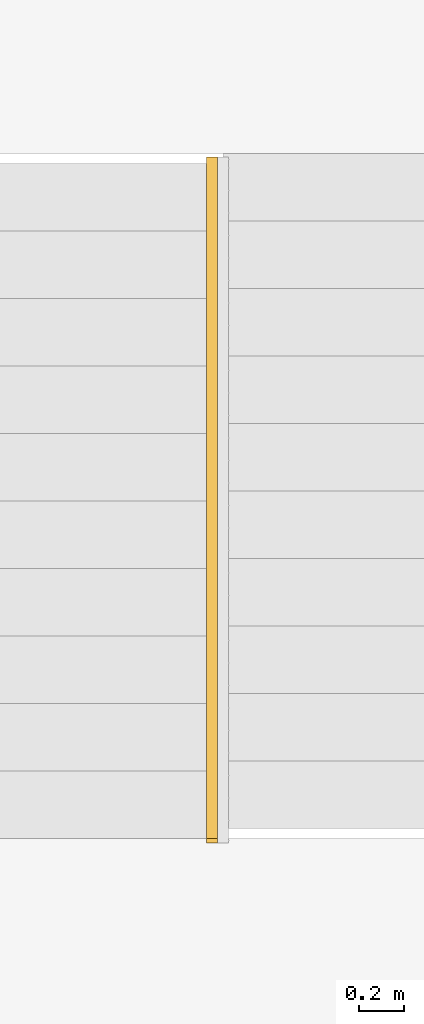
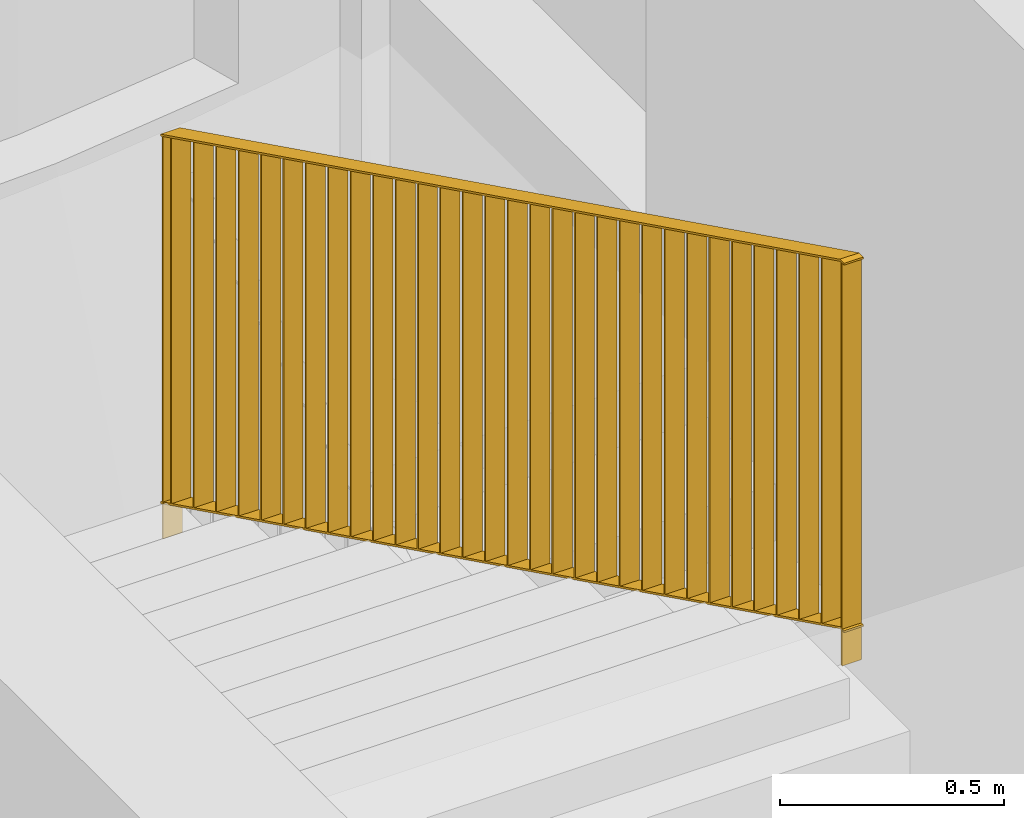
# One storey, part 23 of 46: 1 railing, 1 element without a shape of its own.
"""IFC2X3 building model written with IfcOpenShell, lengths in millimetres."""

from ifc_helpers import new_model, entity, si_unit, converted_unit, derived_unit, direction, frame, origin, place, context, subcontext, project, spatial, faceted_brep, material, element, aggregate, save


model = new_model("IFC2X3")

# Units and contexts
model_context = context("Model", 3, precision=0.01, world=origin(), true_north=direction((6.12303176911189e-17, 1.0)))
body_context = subcontext(model_context, "Body", "Model", "MODEL_VIEW")
ifc_project = project(units=[si_unit("LENGTHUNIT", "METRE", prefix="MILLI"), si_unit("AREAUNIT", "SQUARE_METRE"), si_unit("VOLUMEUNIT", "CUBIC_METRE"), converted_unit("PLANEANGLEUNIT", "DEGREE", entity("IfcRatioMeasure", 0.0174532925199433), si_unit("PLANEANGLEUNIT", "RADIAN"), dimensions=[0, 0, 0, 0, 0, 0, 0]), si_unit("MASSUNIT", "GRAM", prefix="KILO"), derived_unit("MASSDENSITYUNIT", [(si_unit("MASSUNIT", "GRAM", prefix="KILO"), 1), (si_unit("LENGTHUNIT", "METRE"), -3)]), si_unit("TIMEUNIT", "SECOND"), si_unit("FREQUENCYUNIT", "HERTZ"), si_unit("THERMODYNAMICTEMPERATUREUNIT", "DEGREE_CELSIUS"), derived_unit("THERMALTRANSMITTANCEUNIT", [(si_unit("MASSUNIT", "GRAM", prefix="KILO"), 1), (si_unit("THERMODYNAMICTEMPERATUREUNIT", "KELVIN"), -1), (si_unit("TIMEUNIT", "SECOND"), -3)]), derived_unit("VOLUMETRICFLOWRATEUNIT", [(si_unit("LENGTHUNIT", "METRE"), 3), (si_unit("TIMEUNIT", "SECOND"), -1)]), si_unit("ELECTRICCURRENTUNIT", "AMPERE"), si_unit("ELECTRICVOLTAGEUNIT", "VOLT"), si_unit("POWERUNIT", "WATT"), si_unit("FORCEUNIT", "NEWTON", prefix="KILO"), si_unit("ILLUMINANCEUNIT", "LUX"), si_unit("LUMINOUSFLUXUNIT", "LUMEN"), si_unit("LUMINOUSINTENSITYUNIT", "CANDELA"), derived_unit("USERDEFINED", [(si_unit("MASSUNIT", "GRAM", prefix="KILO"), -1), (si_unit("LENGTHUNIT", "METRE"), -2), (si_unit("TIMEUNIT", "SECOND"), 3), (si_unit("LUMINOUSFLUXUNIT", "LUMEN"), 1)]), derived_unit("LINEARVELOCITYUNIT", [(si_unit("LENGTHUNIT", "METRE"), 1), (si_unit("TIMEUNIT", "SECOND"), -1)]), si_unit("PRESSUREUNIT", "PASCAL"), derived_unit("USERDEFINED", [(si_unit("LENGTHUNIT", "METRE"), -2), (si_unit("MASSUNIT", "GRAM", prefix="KILO"), 1), (si_unit("TIMEUNIT", "SECOND"), -2)]), derived_unit("LINEARFORCEUNIT", [(si_unit("MASSUNIT", "GRAM", prefix="KILO"), 1), (si_unit("LENGTHUNIT", "METRE"), 1), (si_unit("TIMEUNIT", "SECOND"), -2), (si_unit("LENGTHUNIT", "METRE"), -1)]), derived_unit("PLANARFORCEUNIT", [(si_unit("MASSUNIT", "GRAM", prefix="KILO"), 1), (si_unit("LENGTHUNIT", "METRE"), 1), (si_unit("TIMEUNIT", "SECOND"), -2), (si_unit("LENGTHUNIT", "METRE"), -2)])], contexts=[model_context])

# Site, building, storey
site_placement = place(None, origin())
site = spatial("IfcSite", under=ifc_project, at=site_placement, Name="Default", CompositionType="ELEMENT")
building_placement = place(site_placement, origin())
building = spatial("IfcBuilding", under=site, at=building_placement, Name="SMA ARH", CompositionType="ELEMENT")
storey_placement = place(building_placement, origin())
storey = spatial("IfcBuildingStorey", under=building, at=storey_placement, Name="1 Korrus", CompositionType="ELEMENT", Elevation=0.0)

# Stair, railing
stair_placement = place(storey_placement, origin())
stair = element("IfcStair", 1, at=stair_placement, inside=storey, Name="Cast-In-Place Stair:Stair", ObjectType="Cast-In-Place Stair:Cast-In-Place Stair", ShapeType="STRAIGHT_RUN_STAIR")
ifc_material = material(Name="Metal - Stainless Steel,Polished")
railing_placement = place(stair_placement, frame((10180.0, 9776.29403501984, 1627.78774461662)))
railing = element("IfcRailing", 2, at=railing_placement, material=ifc_material, Name="Railing:1000mm_sisearh railing offsetiga", ObjectType="Railing:1000mm_sisearh railing offsetiga", PredefinedType="NOTDEFINED", context=body_context, shape_type="Brep", body=[
    faceted_brep([(0.0, 3002.50000000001, 118.557422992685), (0.0, 2997.50000000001, 121.01196844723), (0.0, 2997.50000000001, 1115.44197801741), (0.0, 3002.50000000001, 1112.98743256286), (50.0, 3002.50000000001, 118.557422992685), (50.0, 3002.50000000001, 1112.98743256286), (50.0, 2997.50000000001, 1115.44197801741), (50.0, 2997.50000000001, 121.01196844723)], [[[0, 1, 2, 3]], [[4, 5, 6, 7]], [[1, 0, 4, 7]], [[2, 1, 7, 6]], [[3, 2, 6, 5]], [[0, 3, 5, 4]]]),
    faceted_brep([(0.0, 2902.50000000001, 167.951362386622), (0.0, 2897.50000000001, 170.405907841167), (0.0, 2897.50000000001, 1164.83591741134), (0.0, 2902.50000000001, 1162.3813719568), (50.0, 2902.50000000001, 167.951362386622), (50.0, 2902.50000000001, 1162.3813719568), (50.0, 2897.50000000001, 1164.83591741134), (50.0, 2897.50000000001, 170.405907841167)], [[[0, 1, 2, 3]], [[4, 5, 6, 7]], [[1, 0, 4, 7]], [[2, 1, 7, 6]], [[3, 2, 6, 5]], [[0, 3, 5, 4]]]),
    faceted_brep([(0.0, 2802.50000000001, 217.345301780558), (0.0, 2797.50000000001, 219.799847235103), (0.0, 2797.50000000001, 1214.22985680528), (0.0, 2802.50000000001, 1211.77531135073), (50.0, 2802.50000000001, 217.345301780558), (50.0, 2802.50000000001, 1211.77531135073), (50.0, 2797.50000000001, 1214.22985680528), (50.0, 2797.50000000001, 219.799847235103)], [[[0, 1, 2, 3]], [[4, 5, 6, 7]], [[1, 0, 4, 7]], [[2, 1, 7, 6]], [[3, 2, 6, 5]], [[0, 3, 5, 4]]]),
    faceted_brep([(0.0, 2702.50000000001, 266.739241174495), (0.0, 2697.50000000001, 269.193786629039), (0.0, 2697.50000000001, 1263.62379619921), (0.0, 2702.50000000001, 1261.16925074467), (50.0, 2702.50000000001, 266.739241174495), (50.0, 2702.50000000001, 1261.16925074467), (50.0, 2697.50000000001, 1263.62379619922), (50.0, 2697.50000000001, 269.19378662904)], [[[0, 1, 2, 3]], [[4, 5, 6, 7]], [[1, 0, 4, 7]], [[2, 1, 7, 6]], [[3, 2, 6, 5]], [[0, 3, 5, 4]]]),
    faceted_brep([(0.0, 2602.50000000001, 316.133180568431), (0.0, 2597.50000000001, 318.587726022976), (0.0, 2597.50000000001, 1313.01773559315), (0.0, 2602.50000000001, 1310.56319013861), (50.0, 2602.50000000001, 316.133180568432), (50.0, 2602.50000000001, 1310.56319013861), (50.0, 2597.50000000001, 1313.01773559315), (50.0, 2597.50000000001, 318.587726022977)], [[[0, 1, 2, 3]], [[4, 5, 6, 7]], [[1, 0, 4, 7]], [[2, 1, 7, 6]], [[3, 2, 6, 5]], [[0, 3, 5, 4]]]),
    faceted_brep([(0.0, 2502.50000000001, 365.527119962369), (0.0, 2497.50000000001, 367.981665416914), (0.0, 2497.50000000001, 1362.41167498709), (0.0, 2502.50000000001, 1359.95712953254), (50.0, 2502.50000000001, 365.527119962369), (50.0, 2502.50000000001, 1359.95712953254), (50.0, 2497.50000000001, 1362.41167498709), (50.0, 2497.50000000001, 367.981665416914)], [[[0, 1, 2, 3]], [[4, 5, 6, 7]], [[1, 0, 4, 7]], [[2, 1, 7, 6]], [[3, 2, 6, 5]], [[0, 3, 5, 4]]]),
    faceted_brep([(0.0, 2402.50000000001, 414.921059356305), (0.0, 2397.50000000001, 417.37560481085), (0.0, 2397.50000000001, 1411.80561438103), (0.0, 2402.50000000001, 1409.35106892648), (50.0, 2402.50000000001, 414.921059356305), (50.0, 2402.50000000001, 1409.35106892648), (50.0, 2397.50000000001, 1411.80561438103), (50.0, 2397.50000000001, 417.37560481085)], [[[0, 1, 2, 3]], [[4, 5, 6, 7]], [[1, 0, 4, 7]], [[2, 1, 7, 6]], [[3, 2, 6, 5]], [[0, 3, 5, 4]]]),
    faceted_brep([(0.0, 2302.50000000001, 464.314998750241), (0.0, 2297.50000000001, 466.769544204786), (0.0, 2297.50000000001, 1461.19955377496), (0.0, 2302.50000000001, 1458.74500832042), (50.0, 2302.50000000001, 464.314998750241), (50.0, 2302.50000000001, 1458.74500832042), (50.0, 2297.50000000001, 1461.19955377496), (50.0, 2297.50000000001, 466.769544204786)], [[[0, 1, 2, 3]], [[4, 5, 6, 7]], [[1, 0, 4, 7]], [[2, 1, 7, 6]], [[3, 2, 6, 5]], [[0, 3, 5, 4]]]),
    faceted_brep([(0.0, 2202.50000000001, 513.708938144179), (0.0, 2197.50000000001, 516.163483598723), (0.0, 2197.50000000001, 1510.5934931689), (0.0, 2202.50000000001, 1508.13894771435), (50.0, 2202.50000000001, 513.708938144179), (50.0, 2202.50000000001, 1508.13894771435), (50.0, 2197.50000000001, 1510.5934931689), (50.0, 2197.50000000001, 516.163483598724)], [[[0, 1, 2, 3]], [[4, 5, 6, 7]], [[1, 0, 4, 7]], [[2, 1, 7, 6]], [[3, 2, 6, 5]], [[0, 3, 5, 4]]]),
    faceted_brep([(0.0, 2102.50000000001, 563.102877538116), (0.0, 2097.50000000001, 565.55742299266), (0.0, 2097.50000000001, 1559.98743256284), (0.0, 2102.50000000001, 1557.53288710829), (50.0, 2102.50000000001, 563.102877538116), (50.0, 2102.50000000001, 1557.53288710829), (50.0, 2097.50000000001, 1559.98743256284), (50.0, 2097.50000000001, 565.557422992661)], [[[0, 1, 2, 3]], [[4, 5, 6, 7]], [[1, 0, 4, 7]], [[2, 1, 7, 6]], [[3, 2, 6, 5]], [[0, 3, 5, 4]]]),
    faceted_brep([(0.0, 2002.50000000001, 612.496816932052), (0.0, 1997.50000000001, 614.951362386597), (0.0, 1997.50000000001, 1609.38137195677), (0.0, 2002.50000000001, 1606.92682650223), (50.0, 2002.50000000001, 612.496816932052), (50.0, 2002.50000000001, 1606.92682650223), (50.0, 1997.50000000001, 1609.38137195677), (50.0, 1997.50000000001, 614.951362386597)], [[[0, 1, 2, 3]], [[4, 5, 6, 7]], [[1, 0, 4, 7]], [[2, 1, 7, 6]], [[3, 2, 6, 5]], [[0, 3, 5, 4]]]),
    faceted_brep([(0.0, 1902.50000000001, 661.890756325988), (0.0, 1897.50000000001, 664.345301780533), (0.0, 1897.50000000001, 1658.77531135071), (0.0, 1902.50000000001, 1656.32076589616), (50.0, 1902.50000000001, 661.890756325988), (50.0, 1902.50000000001, 1656.32076589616), (50.0, 1897.50000000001, 1658.77531135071), (50.0, 1897.50000000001, 664.345301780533)], [[[0, 1, 2, 3]], [[4, 5, 6, 7]], [[1, 0, 4, 7]], [[2, 1, 7, 6]], [[3, 2, 6, 5]], [[0, 3, 5, 4]]]),
    faceted_brep([(0.0, 1802.50000000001, 711.284695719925), (0.0, 1797.50000000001, 713.73924117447), (0.0, 1797.50000000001, 1708.16925074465), (0.0, 1802.50000000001, 1705.7147052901), (50.0, 1802.50000000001, 711.284695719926), (50.0, 1802.50000000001, 1705.7147052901), (50.0, 1797.50000000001, 1708.16925074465), (50.0, 1797.50000000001, 713.739241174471)], [[[0, 1, 2, 3]], [[4, 5, 6, 7]], [[1, 0, 4, 7]], [[2, 1, 7, 6]], [[3, 2, 6, 5]], [[0, 3, 5, 4]]]),
    faceted_brep([(0.0, 1702.50000000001, 760.678635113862), (0.0, 1697.50000000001, 763.133180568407), (0.0, 1697.50000000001, 1757.56319013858), (0.0, 1702.50000000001, 1755.10864468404), (50.0, 1702.50000000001, 760.678635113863), (50.0, 1702.50000000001, 1755.10864468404), (50.0, 1697.50000000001, 1757.56319013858), (50.0, 1697.50000000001, 763.133180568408)], [[[0, 1, 2, 3]], [[4, 5, 6, 7]], [[1, 0, 4, 7]], [[2, 1, 7, 6]], [[3, 2, 6, 5]], [[0, 3, 5, 4]]]),
    faceted_brep([(0.0, 1602.50000000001, 810.072574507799), (0.0, 1597.50000000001, 812.527119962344), (0.0, 1597.50000000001, 1806.95712953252), (0.0, 1602.50000000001, 1804.50258407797), (50.0, 1602.50000000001, 810.072574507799), (50.0, 1602.50000000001, 1804.50258407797), (50.0, 1597.50000000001, 1806.95712953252), (50.0, 1597.50000000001, 812.527119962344)], [[[0, 1, 2, 3]], [[4, 5, 6, 7]], [[1, 0, 4, 7]], [[2, 1, 7, 6]], [[3, 2, 6, 5]], [[0, 3, 5, 4]]]),
    faceted_brep([(0.0, 1502.50000000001, 859.466513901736), (0.0, 1497.50000000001, 861.921059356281), (0.0, 1497.50000000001, 1856.35106892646), (0.0, 1502.50000000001, 1853.89652347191), (50.0, 1502.50000000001, 859.466513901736), (50.0, 1502.50000000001, 1853.89652347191), (50.0, 1497.50000000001, 1856.35106892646), (50.0, 1497.50000000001, 861.921059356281)], [[[0, 1, 2, 3]], [[4, 5, 6, 7]], [[1, 0, 4, 7]], [[2, 1, 7, 6]], [[3, 2, 6, 5]], [[0, 3, 5, 4]]]),
    faceted_brep([(0.0, 1402.50000000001, 908.860453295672), (0.0, 1397.50000000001, 911.314998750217), (0.0, 1397.50000000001, 1905.74500832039), (0.0, 1402.50000000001, 1903.29046286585), (50.0, 1402.50000000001, 908.860453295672), (50.0, 1402.50000000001, 1903.29046286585), (50.0, 1397.50000000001, 1905.74500832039), (50.0, 1397.50000000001, 911.314998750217)], [[[0, 1, 2, 3]], [[4, 5, 6, 7]], [[1, 0, 4, 7]], [[2, 1, 7, 6]], [[3, 2, 6, 5]], [[0, 3, 5, 4]]]),
    faceted_brep([(0.0, 1302.50000000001, 958.254392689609), (0.0, 1297.50000000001, 960.708938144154), (0.0, 1297.50000000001, 1955.13894771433), (0.0, 1302.50000000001, 1952.68440225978), (50.0, 1302.50000000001, 958.254392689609), (50.0, 1302.50000000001, 1952.68440225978), (50.0, 1297.50000000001, 1955.13894771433), (50.0, 1297.50000000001, 960.708938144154)], [[[0, 1, 2, 3]], [[4, 5, 6, 7]], [[1, 0, 4, 7]], [[2, 1, 7, 6]], [[3, 2, 6, 5]], [[0, 3, 5, 4]]]),
    faceted_brep([(0.0, 1202.50000000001, 1007.64833208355), (0.0, 1197.50000000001, 1010.10287753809), (0.0, 1197.50000000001, 2004.53288710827), (0.0, 1202.50000000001, 2002.07834165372), (50.0, 1202.50000000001, 1007.64833208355), (50.0, 1202.50000000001, 2002.07834165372), (50.0, 1197.50000000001, 2004.53288710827), (50.0, 1197.50000000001, 1010.10287753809)], [[[0, 1, 2, 3]], [[4, 5, 6, 7]], [[1, 0, 4, 7]], [[2, 1, 7, 6]], [[3, 2, 6, 5]], [[0, 3, 5, 4]]]),
    faceted_brep([(0.0, 1102.50000000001, 1057.04227147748), (0.0, 1097.50000000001, 1059.49681693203), (0.0, 1097.50000000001, 2053.9268265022), (0.0, 1102.50000000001, 2051.47228104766), (50.0, 1102.50000000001, 1057.04227147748), (50.0, 1102.50000000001, 2051.47228104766), (50.0, 1097.50000000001, 2053.9268265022), (50.0, 1097.50000000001, 1059.49681693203)], [[[0, 1, 2, 3]], [[4, 5, 6, 7]], [[1, 0, 4, 7]], [[2, 1, 7, 6]], [[3, 2, 6, 5]], [[0, 3, 5, 4]]]),
    faceted_brep([(0.0, 1002.50000000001, 1106.43621087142), (0.0, 997.500000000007, 1108.89075632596), (0.0, 997.500000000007, 2103.32076589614), (0.0, 1002.50000000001, 2100.86622044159), (50.0, 1002.50000000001, 1106.43621087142), (50.0, 1002.50000000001, 2100.86622044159), (50.0, 997.500000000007, 2103.32076589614), (50.0, 997.500000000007, 1108.89075632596)], [[[0, 1, 2, 3]], [[4, 5, 6, 7]], [[1, 0, 4, 7]], [[2, 1, 7, 6]], [[3, 2, 6, 5]], [[0, 3, 5, 4]]]),
    faceted_brep([(0.0, 902.500000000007, 1155.83015026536), (0.0, 897.500000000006, 1158.2846957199), (0.0, 897.500000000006, 2152.71470529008), (0.0, 902.500000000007, 2150.26015983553), (50.0, 902.500000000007, 1155.83015026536), (50.0, 902.500000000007, 2150.26015983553), (50.0, 897.500000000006, 2152.71470529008), (50.0, 897.500000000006, 1158.2846957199)], [[[0, 1, 2, 3]], [[4, 5, 6, 7]], [[1, 0, 4, 7]], [[2, 1, 7, 6]], [[3, 2, 6, 5]], [[0, 3, 5, 4]]]),
    faceted_brep([(0.0, 802.500000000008, 1205.22408965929), (0.0, 797.500000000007, 1207.67863511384), (0.0, 797.500000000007, 2202.10864468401), (0.0, 802.500000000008, 2199.65409922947), (50.0, 802.500000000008, 1205.22408965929), (50.0, 802.500000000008, 2199.65409922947), (50.0, 797.500000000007, 2202.10864468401), (50.0, 797.500000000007, 1207.67863511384)], [[[0, 1, 2, 3]], [[4, 5, 6, 7]], [[1, 0, 4, 7]], [[2, 1, 7, 6]], [[3, 2, 6, 5]], [[0, 3, 5, 4]]]),
    faceted_brep([(0.0, 702.500000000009, 1254.61802905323), (0.0, 697.500000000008, 1257.07257450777), (0.0, 697.500000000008, 2251.50258407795), (0.0, 702.500000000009, 2249.0480386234), (50.0, 702.500000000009, 1254.61802905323), (50.0, 702.500000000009, 2249.0480386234), (50.0, 697.500000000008, 2251.50258407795), (50.0, 697.500000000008, 1257.07257450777)], [[[0, 1, 2, 3]], [[4, 5, 6, 7]], [[1, 0, 4, 7]], [[2, 1, 7, 6]], [[3, 2, 6, 5]], [[0, 3, 5, 4]]]),
    faceted_brep([(0.0, 602.500000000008, 1304.01196844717), (0.0, 597.500000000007, 1306.46651390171), (0.0, 597.500000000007, 2300.89652347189), (0.0, 602.500000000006, 2298.44197801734), (50.0, 602.500000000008, 1304.01196844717), (50.0, 602.500000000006, 2298.44197801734), (50.0, 597.500000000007, 2300.89652347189), (50.0, 597.500000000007, 1306.46651390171)], [[[0, 1, 2, 3]], [[4, 5, 6, 7]], [[1, 0, 4, 7]], [[2, 1, 7, 6]], [[3, 2, 6, 5]], [[0, 3, 5, 4]]]),
    faceted_brep([(0.0, 502.500000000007, 1353.4059078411), (0.0, 497.500000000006, 1355.86045329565), (0.0, 497.500000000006, 2350.29046286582), (0.0, 502.500000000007, 2347.83591741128), (50.0, 502.500000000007, 1353.4059078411), (50.0, 502.500000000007, 2347.83591741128), (50.0, 497.500000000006, 2350.29046286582), (50.0, 497.500000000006, 1355.86045329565)], [[[0, 1, 2, 3]], [[4, 5, 6, 7]], [[1, 0, 4, 7]], [[2, 1, 7, 6]], [[3, 2, 6, 5]], [[0, 3, 5, 4]]]),
    faceted_brep([(0.0, 402.500000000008, 1402.79984723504), (0.0, 397.500000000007, 1405.25439268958), (0.0, 397.500000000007, 2399.68440225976), (0.0, 402.500000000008, 2397.22985680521), (50.0, 402.500000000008, 1402.79984723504), (50.0, 402.500000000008, 2397.22985680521), (50.0, 397.500000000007, 2399.68440225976), (50.0, 397.500000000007, 1405.25439268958)], [[[0, 1, 2, 3]], [[4, 5, 6, 7]], [[1, 0, 4, 7]], [[2, 1, 7, 6]], [[3, 2, 6, 5]], [[0, 3, 5, 4]]]),
    faceted_brep([(0.0, 302.500000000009, 1452.19378662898), (0.0, 297.500000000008, 1454.64833208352), (0.0, 297.500000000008, 2449.0783416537), (0.0, 302.500000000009, 2446.62379619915), (50.0, 302.500000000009, 1452.19378662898), (50.0, 302.500000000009, 2446.62379619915), (50.0, 297.500000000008, 2449.0783416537), (50.0, 297.500000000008, 1454.64833208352)], [[[0, 1, 2, 3]], [[4, 5, 6, 7]], [[1, 0, 4, 7]], [[2, 1, 7, 6]], [[3, 2, 6, 5]], [[0, 3, 5, 4]]]),
    faceted_brep([(0.0, 202.500000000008, 1501.58772602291), (0.0, 197.500000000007, 1504.04227147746), (0.0, 197.500000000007, 2498.47228104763), (0.0, 202.500000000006, 2496.01773559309), (50.0, 202.500000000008, 1501.58772602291), (50.0, 202.500000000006, 2496.01773559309), (50.0, 197.500000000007, 2498.47228104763), (50.0, 197.500000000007, 1504.04227147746)], [[[0, 1, 2, 3]], [[4, 5, 6, 7]], [[1, 0, 4, 7]], [[2, 1, 7, 6]], [[3, 2, 6, 5]], [[0, 3, 5, 4]]]),
    faceted_brep([(0.0, 102.500000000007, 1550.98166541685), (0.0, 97.500000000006, 1553.43621087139), (0.0, 97.500000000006, 2547.86622044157), (0.0, 102.500000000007, 2545.41167498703), (50.0, 102.500000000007, 1550.98166541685), (50.0, 102.500000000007, 2545.41167498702), (50.0, 97.500000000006, 2547.86622044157), (50.0, 97.500000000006, 1553.43621087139)], [[[0, 1, 2, 3]], [[4, 5, 6, 7]], [[1, 0, 4, 7]], [[2, 1, 7, 6]], [[3, 2, 6, 5]], [[0, 3, 5, 4]]]),
    faceted_brep([(0.0, 3040.07024286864, 0.0), (0.0, 3035.07024286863, 2.45454545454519), (0.0, 3035.07024286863, 1096.88455502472), (0.0, 3040.07024286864, 1094.43000957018), (50.0, 3040.07024286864, 0.0), (50.0, 3040.07024286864, 1094.43000957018), (50.0, 3035.07024286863, 1096.88455502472), (50.0, 3035.07024286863, 2.45454545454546)], [[[0, 1, 2, 3]], [[4, 5, 6, 7]], [[1, 0, 4, 7]], [[2, 1, 7, 6]], [[3, 2, 6, 5]], [[0, 3, 5, 4]]]),
    faceted_brep([(0.0, 12.500000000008, 1492.21225538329), (0.0, 7.50000000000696, 1492.21225538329), (0.0, 7.50000000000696, 2587.21225538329), (0.0, 12.500000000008, 2587.21225538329), (50.0, 12.500000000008, 1492.21225538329), (50.0, 12.500000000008, 2587.21225538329), (50.0, 7.50000000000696, 2587.21225538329), (50.0, 7.50000000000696, 1492.21225538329)], [[[0, 1, 2, 3]], [[4, 5, 6, 7]], [[1, 0, 4, 7]], [[2, 1, 7, 6]], [[3, 2, 6, 5]], [[0, 3, 5, 4]]]),
    faceted_brep([(0.440169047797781, 0.0, 1592.21225538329), (0.440169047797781, 0.0, 1587.21225538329), (50.4401690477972, 0.0, 1587.21225538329), (50.4401690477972, 0.0, 1592.21225538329), (0.440169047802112, 3047.57024286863, 96.2878787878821), (50.4401690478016, 3047.57024286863, 96.2878787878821), (50.4401690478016, 3047.57024286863, 90.7111949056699), (0.440169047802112, 3047.57024286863, 90.7111949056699), (0.440169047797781, 19.0116890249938, 1592.21225538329), (0.440169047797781, 17.8441695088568, 1587.21225538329), (50.4401690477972, 17.8441695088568, 1587.21225538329), (50.4401690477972, 19.0116890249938, 1592.21225538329)], [[[0, 1, 2, 3]], [[4, 5, 6, 7]], [[1, 0, 8, 9]], [[2, 1, 9, 10]], [[3, 2, 10, 11]], [[0, 3, 11, 8]], [[9, 8, 4, 7]], [[10, 9, 7, 6]], [[11, 10, 6, 5]], [[8, 11, 5, 4]]]),
    faceted_brep([(0.440169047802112, 3047.57024286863, 1096.28787878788), (50.4401690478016, 3047.57024286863, 1096.28787878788), (50.4401690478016, 3047.57024286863, 1090.71119490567), (0.440169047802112, 3047.57024286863, 1090.71119490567), (0.440169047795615, 19.0116890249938, 2592.21225538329), (50.4401690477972, 19.0116890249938, 2592.21225538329), (50.4401690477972, 17.844169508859, 2587.21225538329), (0.440169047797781, 17.844169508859, 2587.21225538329), (0.440169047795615, 0.0, 2592.21225538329), (0.440169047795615, 0.0, 2587.21225538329), (50.4401690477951, 0.0, 2587.21225538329), (50.4401690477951, 0.0, 2592.21225538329)], [[[0, 1, 2, 3]], [[1, 0, 4, 5]], [[2, 1, 5, 6]], [[3, 2, 6, 7]], [[0, 3, 7, 4]], [[8, 9, 10, 11]], [[5, 4, 8, 11]], [[6, 5, 11, 10]], [[7, 6, 10, 9]], [[4, 7, 9, 8]]]),
])
aggregate(stair, [railing])

save(model, "model.ifc")
